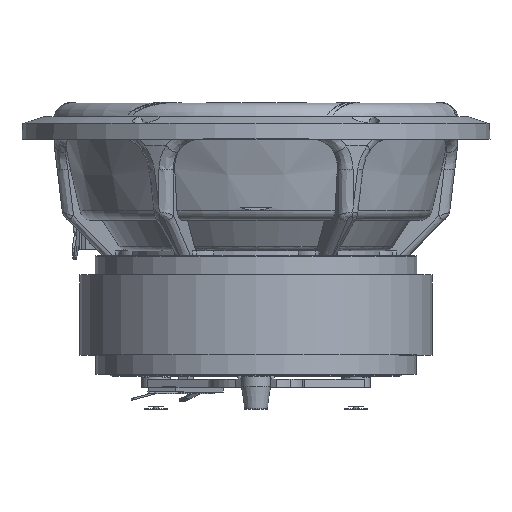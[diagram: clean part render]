
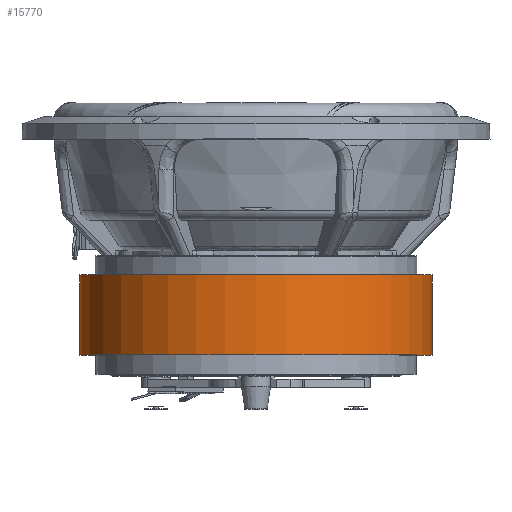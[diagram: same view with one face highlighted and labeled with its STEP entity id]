
A CAD part, top view. The second image highlights one B-rep face of the part: STEP entity #15770.
In plain terms, the highlighted cylindrical face has radius 55 mm (diameter 110 mm), a full revolution.
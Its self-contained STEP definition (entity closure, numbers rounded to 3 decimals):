
#1736=FACE_OUTER_BOUND('',#2607,.T.);
#2607=EDGE_LOOP('',(#11752,#11753,#11754,#11755));
#3501=LINE('',#28545,#4770);
#4770=VECTOR('',#18786,55.);
#5995=CIRCLE('',#16825,55.);
#5996=CIRCLE('',#16826,55.);
#6830=VERTEX_POINT('',#28542);
#6831=VERTEX_POINT('',#28544);
#8639=EDGE_CURVE('',#6830,#6830,#5995,.T.);
#8640=EDGE_CURVE('',#6830,#6831,#3501,.T.);
#8641=EDGE_CURVE('',#6831,#6831,#5996,.T.);
#11752=ORIENTED_EDGE('',*,*,#8639,.F.);
#11753=ORIENTED_EDGE('',*,*,#8640,.T.);
#11754=ORIENTED_EDGE('',*,*,#8641,.F.);
#11755=ORIENTED_EDGE('',*,*,#8640,.F.);
#14554=CYLINDRICAL_SURFACE('',#16824,55.);
#15770=ADVANCED_FACE('',(#1736),#14554,.T.);
#16824=AXIS2_PLACEMENT_3D('',#28541,#18782,#18783);
#16825=AXIS2_PLACEMENT_3D('',#28543,#18784,#18785);
#16826=AXIS2_PLACEMENT_3D('',#28546,#18787,#18788);
#18782=DIRECTION('center_axis',(0.,1.,0.));
#18783=DIRECTION('ref_axis',(-1.,0.,0.));
#18784=DIRECTION('center_axis',(0.,1.,0.));
#18785=DIRECTION('ref_axis',(-1.,0.,0.));
#18786=DIRECTION('',(0.,-1.,0.));
#18787=DIRECTION('center_axis',(0.,-1.,0.));
#18788=DIRECTION('ref_axis',(-1.,0.,0.));
#28541=CARTESIAN_POINT('Origin',(0.,-51.985,
0.));
#28542=CARTESIAN_POINT('',(55.,-26.985,0.));
#28543=CARTESIAN_POINT('Origin',(0.,-26.985,
0.));
#28544=CARTESIAN_POINT('',(55.,-51.985,0.));
#28545=CARTESIAN_POINT('',(55.,-51.985,0.));
#28546=CARTESIAN_POINT('Origin',(0.,-51.985,
0.));
